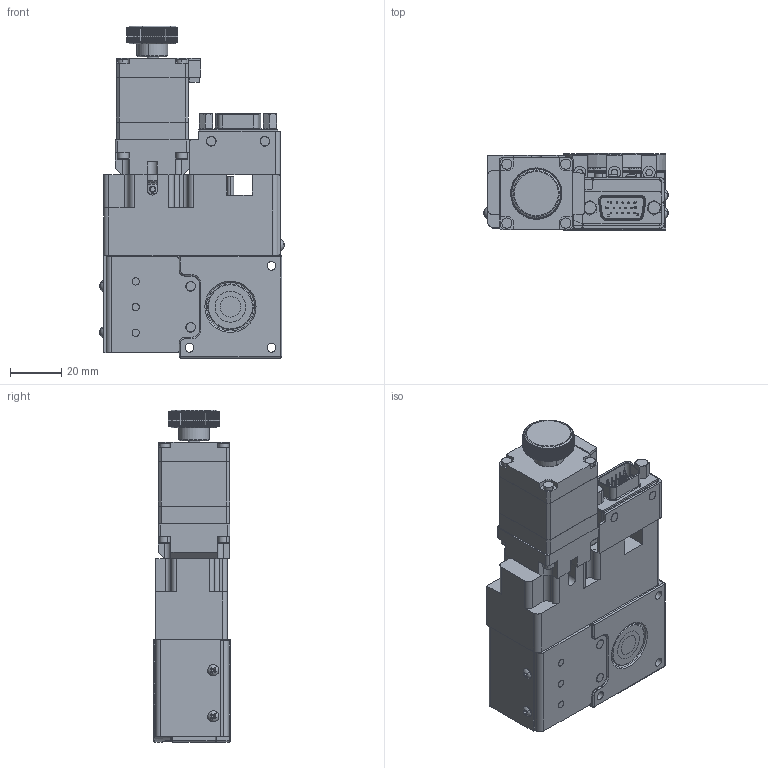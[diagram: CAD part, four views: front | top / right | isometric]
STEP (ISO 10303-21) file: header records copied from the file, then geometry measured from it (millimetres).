
FILE_DESCRIPTION (( 'STEP AP203' ), '1' );
FILE_NAME ('ARH40-A2OPN(網站用).STEP', '2021-03-09T06:34:01', ( '' ), ( '' ), 'SwSTEP 2.0', 'SolidWorks 2019', '' );
FILE_SCHEMA (( 'CONFIG_CONTROL_DESIGN' ));
Length unit declared in the file: millimetre
Products named in the file (3): Group1^ARH40-A2OPN模糊化_GMT; Group2^ARH40-A2OPN模糊化_GMT; ARH40-A2OPN(網站用)
Assembly tree (2 placements, depth 2):
  ARH40-A2OPN(網站用)
    Group1^ARH40-A2OPN模糊化_GMT
    Group2^ARH40-A2OPN模糊化_GMT
Bounding box: 71.83 x 30 x 129.6 mm (x, y, z)
Volume: 150181 mm3; surface area: 65610.7 mm2
Topology: 95 solids, 97 shells, 3707 faces, 10063 edges, 6364 vertices
Faces by surface type: plane 1415, cylinder 1053, torus 464, cone 428, bspline 233, sphere 114
Entity records: 125742 total; most frequent: CARTESIAN_POINT 35377, ORIENTED_EDGE 19328, DIRECTION 18653, EDGE_CURVE 9664, AXIS2_PLACEMENT_3D 7252, VERTEX_POINT 6233, LINE 4149, VECTOR 4149
